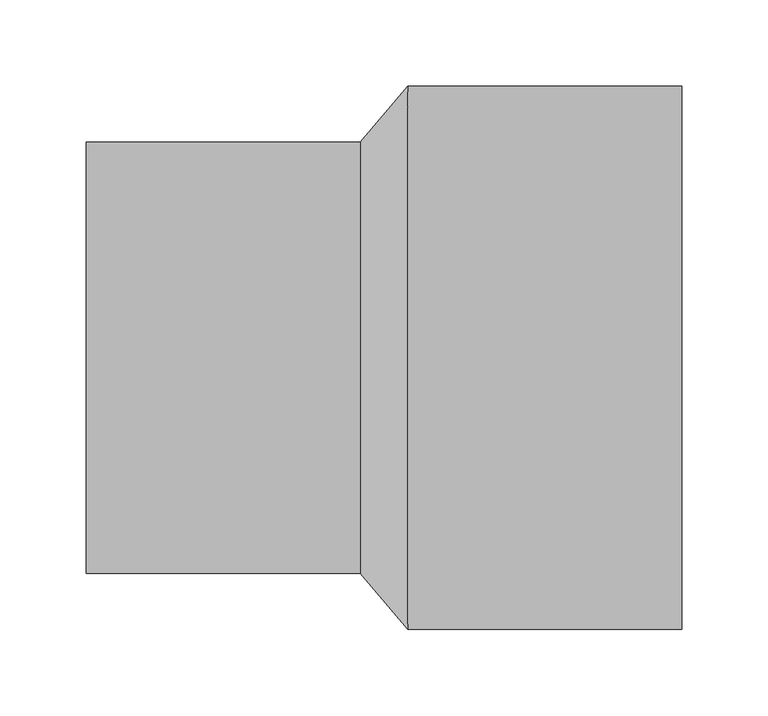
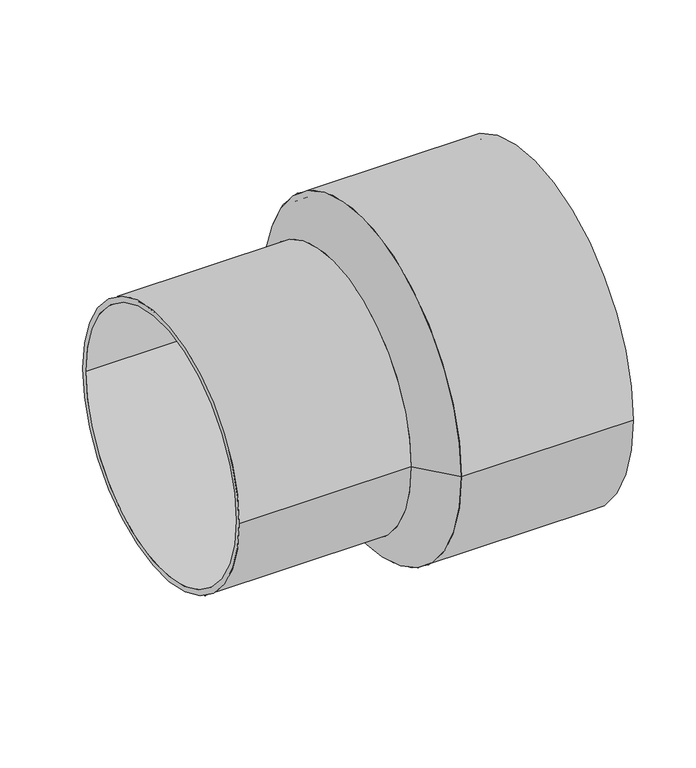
"""IFC4 building model written with IfcOpenShell, lengths in millimetres: pipe fitting geometry, EGB_VASEN_ PPR_Manguito reductor a tope WXRB110 : Manguito reductor a tope WXRB110."""

from ifc_helpers import new_model, si_unit, point, frame, origin, origin_2d, place, context, project, spatial, polyline, circle_curve, trimmed, segment, composite_curve, outline, extrude, source, transform, mapped, element, save
from ifc_brep_helpers import plane_surface, revolved_surface, advanced_brep


def pipe_fitting_1fe84323(model_context):
    return source(origin(), model_context, "Body", "SolidModel", [
        extrude(outline(composite_curve([segment(trimmed(circle_curve(origin_2d(), 157.5), [point((-157.5, 0.0))], [point((157.5, 0.0))], False, "CARTESIAN"), True, "CONTINUOUS"), segment(trimmed(circle_curve(origin_2d(), 157.5), [point((157.5, 0.0))], [point((-157.5, 0.0))], False, "CARTESIAN"), True, "CONTINUOUS")], self_intersect=False), holes=[composite_curve([segment(trimmed(circle_curve(origin_2d(), 152.5), [point((-152.5, 0.0))], [point((152.5, 0.0))], True, "CARTESIAN"), True, "CONTINUOUS"), segment(trimmed(circle_curve(origin_2d(), 152.5), [point((152.5, 0.0))], [point((-152.5, 0.0))], True, "CARTESIAN"), True, "CONTINUOUS")], self_intersect=False)]), frame((13.8, 0.0, 0.0), z_axis=(1.0, 0.0, 0.0), x_axis=(0.0, 1.0, 0.0)), (0.0, 0.0, 1.0), 158.7),
        extrude(outline(composite_curve([segment(trimmed(circle_curve(origin_2d(), 125.0), [point((-125.0, 0.0))], [point((125.0, 0.0))], False, "CARTESIAN"), True, "CONTINUOUS"), segment(trimmed(circle_curve(origin_2d(), 125.0), [point((125.0, 0.0))], [point((-125.0, 0.0))], False, "CARTESIAN"), True, "CONTINUOUS")], self_intersect=False), holes=[composite_curve([segment(trimmed(circle_curve(origin_2d(), 120.0), [point((-120.0, 0.0))], [point((120.0, 0.0))], True, "CARTESIAN"), True, "CONTINUOUS"), segment(trimmed(circle_curve(origin_2d(), 120.0), [point((120.0, 0.0))], [point((-120.0, 0.0))], True, "CARTESIAN"), True, "CONTINUOUS")], self_intersect=False)]), frame((-172.5, 0.0, 0.0), z_axis=(1.0, 0.0, 0.0), x_axis=(0.0, 1.0, 0.0)), (0.0, 0.0, 1.0), 158.7),
        advanced_brep(
        [(13.8, -157.5, 0.0), (13.8, 157.5, 0.0), (-13.8, -125.0, 0.0), (-13.8, 125.0, 0.0)],
        [
            (0, 1, circle_curve(frame((13.8, 0.0, 0.0), z_axis=(1.0, 0.0, 0.0), x_axis=(0.0, -1.0, 0.0)), 157.5)),
            (1, 0, circle_curve(frame((13.8, 0.0, 0.0), z_axis=(1.0, 0.0, 0.0), x_axis=(0.0, 1.0, 0.0)), 157.5)),
            (2, 3, circle_curve(frame((-13.8, 0.0, 0.0), z_axis=(-1.0, 0.0, 0.0), x_axis=(0.0, 1.0, 0.0)), 125.0)),
            (3, 2, circle_curve(frame((-13.8, 0.0, 0.0), z_axis=(-1.0, 0.0, 0.0), x_axis=(0.0, -1.0, 0.0)), 125.0)),
            (3, 1),
            (0, 2),
        ],
        [
            plane_surface(frame((13.8, 0.0, 0.0), z_axis=(1.0, 0.0, 0.0), x_axis=(0.0, 0.0, -1.0))),
            plane_surface(frame((-13.8, 0.0, 0.0), z_axis=(-1.0, 0.0, 0.0), x_axis=(0.0, 0.0, -1.0))),
            revolved_surface(polyline([(-13.799999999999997, 125.00000001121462, 0.0), (13.799999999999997, 157.5, 0.0)]), (-119.9538462, 0.0, 0.0), (1.0, 0.0, 0.0)),
            revolved_surface(polyline([(-13.799999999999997, -125.00000001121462, 0.0), (13.799999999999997, -157.5, 0.0)]), (-119.9538462, 0.0, 0.0), (1.0, 0.0, 0.0)),
        ],
        [
            (0, [[1, 2]]),
            (1, [[3, 4]]),
            (2, [[-4, 5, -1, 6]]),
            (3, [[-3, -6, -2, -5]]),
        ],
    ),
    ])


if __name__ == "__main__":
    model = new_model("IFC4")
    model_context = context("Model", 3, world=origin())
    ifc_project = project(units=[si_unit("LENGTHUNIT", "METRE", prefix="MILLI")], contexts=[model_context])
    site = spatial("IfcSite", under=ifc_project)
    building = spatial("IfcBuilding", under=site)
    placement = place(None, origin())
    pipe_fitting_shape = pipe_fitting_1fe84323(model_context)
    element("IfcPipeFitting", 1, ObjectType="EGB_VASEN_ PPR_Manguito reductor a tope WXRB110 : Manguito reductor a tope WXRB110", at=placement, inside=building, context=model_context, shape_type="MappedRepresentation", body=[
        mapped(pipe_fitting_shape, transform((0.0, 0.0, 0.0), x_axis=(1.0, 0.0, 0.0), y_axis=(0.0, 1.0, 0.0), z_axis=(0.0, 0.0, 1.0))),
    ])
    save(model, "model.ifc")
